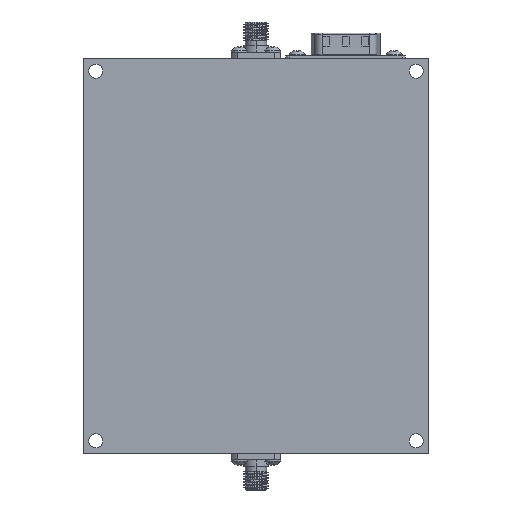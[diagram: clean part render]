
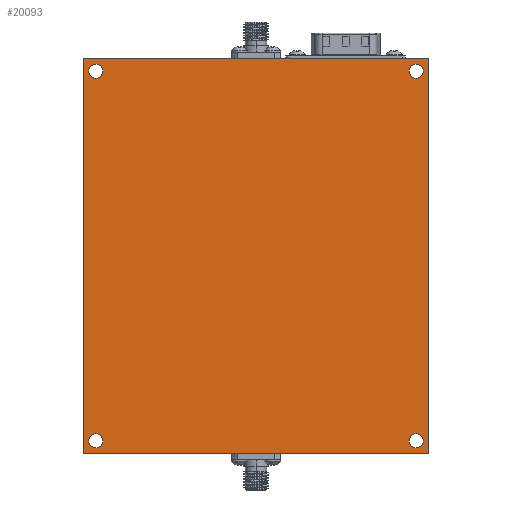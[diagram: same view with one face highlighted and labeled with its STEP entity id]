
A CAD part, front view. The second image highlights one B-rep face of the part: STEP entity #20093.
In plain terms, the highlighted planar face has unit normal (0, -1, 0).
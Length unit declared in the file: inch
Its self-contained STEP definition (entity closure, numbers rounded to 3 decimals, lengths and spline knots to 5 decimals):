
#8 = CIRCLE ( 'NONE', #4011, 0.072 ) ;
#124 = CARTESIAN_POINT ( 'NONE',  ( 3.375, 0., -0.197 ) ) ;
#360 = LINE ( 'NONE', #8512, #13853 ) ;
#483 = VECTOR ( 'NONE', #18515, 39.37008 ) ;
#648 = FACE_BOUND ( 'NONE', #5110, .T. ) ;
#693 = EDGE_CURVE ( 'NONE', #17747, #15999, #18572, .T. ) ;
#835 = CARTESIAN_POINT ( 'NONE',  ( 3.5, 0., -4. ) ) ;
#980 = DIRECTION ( 'NONE',  ( 0., 1., 0. ) ) ;
#1340 = DIRECTION ( 'NONE',  ( 0., 1., 0. ) ) ;
#1588 = DIRECTION ( 'NONE',  ( 0., 0., 1. ) ) ;
#2167 = EDGE_CURVE ( 'NONE', #17998, #16111, #8764, .T. ) ;
#2480 = ORIENTED_EDGE ( 'NONE', *, *, #18947, .T. ) ;
#3017 = DIRECTION ( 'NONE',  ( 0., 0., 1. ) ) ;
#3297 = DIRECTION ( 'NONE',  ( 1., 0., 0. ) ) ;
#4011 = AXIS2_PLACEMENT_3D ( 'NONE', #11476, #980, #13278 ) ;
#4068 = EDGE_CURVE ( 'NONE', #16401, #21632, #19484, .T. ) ;
#4439 = CARTESIAN_POINT ( 'NONE',  ( 0.125, 0., -3.875 ) ) ;
#5110 = EDGE_LOOP ( 'NONE', ( #8149, #11071 ) ) ;
#5328 = FACE_OUTER_BOUND ( 'NONE', #22346, .T. ) ;
#5418 = DIRECTION ( 'NONE',  ( 0., 0., -1. ) ) ;
#5428 = DIRECTION ( 'NONE',  ( 0., 1., 0. ) ) ;
#5559 = CARTESIAN_POINT ( 'NONE',  ( 3.375, 0., -3.875 ) ) ;
#5631 = CARTESIAN_POINT ( 'NONE',  ( 3.375, 0., -3.875 ) ) ;
#6232 = DIRECTION ( 'NONE',  ( 0., 0., -1. ) ) ;
#6806 = ORIENTED_EDGE ( 'NONE', *, *, #8636, .F. ) ;
#6850 = CARTESIAN_POINT ( 'NONE',  ( 3.375, 0., -3.947 ) ) ;
#7105 = CARTESIAN_POINT ( 'NONE',  ( 3.5, 0., 0. ) ) ;
#7325 = DIRECTION ( 'NONE',  ( 0., 0., 1. ) ) ;
#7331 = ORIENTED_EDGE ( 'NONE', *, *, #13251, .F. ) ;
#7394 = DIRECTION ( 'NONE',  ( 0., 0., 1. ) ) ;
#7845 = EDGE_LOOP ( 'NONE', ( #11041, #12329 ) ) ;
#7875 = EDGE_CURVE ( 'NONE', #11026, #22680, #14890, .T. ) ;
#7931 = EDGE_CURVE ( 'NONE', #22680, #11026, #18491, .T. ) ;
#8067 = CARTESIAN_POINT ( 'NONE',  ( 0., 0., 0. ) ) ;
#8149 = ORIENTED_EDGE ( 'NONE', *, *, #7875, .T. ) ;
#8415 = VECTOR ( 'NONE', #5418, 39.37008 ) ;
#8512 = CARTESIAN_POINT ( 'NONE',  ( 0., 0., 0. ) ) ;
#8636 = EDGE_CURVE ( 'NONE', #17633, #16401, #19277, .T. ) ;
#8762 = DIRECTION ( 'NONE',  ( 0., 1., 0. ) ) ;
#8764 = CIRCLE ( 'NONE', #17151, 0.072 ) ;
#8845 = CIRCLE ( 'NONE', #15040, 0.072 ) ;
#8930 = VERTEX_POINT ( 'NONE', #16172 ) ;
#9584 = EDGE_LOOP ( 'NONE', ( #2480, #15448 ) ) ;
#9733 = DIRECTION ( 'NONE',  ( 0., -1., 0. ) ) ;
#9766 = CIRCLE ( 'NONE', #21625, 0.072 ) ;
#9971 = FACE_BOUND ( 'NONE', #7845, .T. ) ;
#10010 = VECTOR ( 'NONE', #3017, 39.37008 ) ;
#10211 = EDGE_CURVE ( 'NONE', #15999, #17747, #8845, .T. ) ;
#10355 = AXIS2_PLACEMENT_3D ( 'NONE', #5631, #18004, #7394 ) ;
#10547 = ORIENTED_EDGE ( 'NONE', *, *, #693, .T. ) ;
#11026 = VERTEX_POINT ( 'NONE', #6850 ) ;
#11041 = ORIENTED_EDGE ( 'NONE', *, *, #13653, .T. ) ;
#11071 = ORIENTED_EDGE ( 'NONE', *, *, #7931, .T. ) ;
#11476 = CARTESIAN_POINT ( 'NONE',  ( 3.375, 0., -0.125 ) ) ;
#11566 = CARTESIAN_POINT ( 'NONE',  ( 0.125, 0., -0.053 ) ) ;
#11839 = CARTESIAN_POINT ( 'NONE',  ( 3.375, 0., -0.125 ) ) ;
#12103 = DIRECTION ( 'NONE',  ( 0., 1., 0. ) ) ;
#12161 = AXIS2_PLACEMENT_3D ( 'NONE', #15131, #9733, #16923 ) ;
#12329 = ORIENTED_EDGE ( 'NONE', *, *, #22289, .T. ) ;
#12478 = ORIENTED_EDGE ( 'NONE', *, *, #20293, .F. ) ;
#12531 = VERTEX_POINT ( 'NONE', #124 ) ;
#13123 = LINE ( 'NONE', #7105, #8415 ) ;
#13251 = EDGE_CURVE ( 'NONE', #8930, #17633, #13123, .T. ) ;
#13278 = DIRECTION ( 'NONE',  ( 0., 0., -1. ) ) ;
#13317 = PLANE ( 'NONE',  #12161 ) ;
#13344 = CARTESIAN_POINT ( 'NONE',  ( 3.375, 0., -3.803 ) ) ;
#13581 = CARTESIAN_POINT ( 'NONE',  ( 0., 0., 0. ) ) ;
#13630 = AXIS2_PLACEMENT_3D ( 'NONE', #16027, #5428, #17821 ) ;
#13643 = DIRECTION ( 'NONE',  ( 0., 0., -1. ) ) ;
#13653 = EDGE_CURVE ( 'NONE', #12531, #19559, #9766, .T. ) ;
#13853 = VECTOR ( 'NONE', #3297, 39.37008 ) ;
#14141 = FACE_BOUND ( 'NONE', #17491, .T. ) ;
#14890 = CIRCLE ( 'NONE', #10355, 0.072 ) ;
#15040 = AXIS2_PLACEMENT_3D ( 'NONE', #22767, #12103, #1588 ) ;
#15131 = CARTESIAN_POINT ( 'NONE',  ( 0., 0., 0. ) ) ;
#15143 = AXIS2_PLACEMENT_3D ( 'NONE', #5559, #17940, #7325 ) ;
#15448 = ORIENTED_EDGE ( 'NONE', *, *, #2167, .T. ) ;
#15999 = VERTEX_POINT ( 'NONE', #18781 ) ;
#16027 = CARTESIAN_POINT ( 'NONE',  ( 0.125, 0., -3.875 ) ) ;
#16111 = VERTEX_POINT ( 'NONE', #19318 ) ;
#16172 = CARTESIAN_POINT ( 'NONE',  ( 3.5, 0., 0. ) ) ;
#16183 = CIRCLE ( 'NONE', #13630, 0.072 ) ;
#16401 = VERTEX_POINT ( 'NONE', #18592 ) ;
#16823 = DIRECTION ( 'NONE',  ( 0., 1., 0. ) ) ;
#16923 = DIRECTION ( 'NONE',  ( 0., 0., -1. ) ) ;
#17151 = AXIS2_PLACEMENT_3D ( 'NONE', #4439, #16823, #6232 ) ;
#17425 = AXIS2_PLACEMENT_3D ( 'NONE', #19428, #8762, #21197 ) ;
#17491 = EDGE_LOOP ( 'NONE', ( #20006, #10547 ) ) ;
#17633 = VERTEX_POINT ( 'NONE', #835 ) ;
#17747 = VERTEX_POINT ( 'NONE', #11566 ) ;
#17821 = DIRECTION ( 'NONE',  ( 0., 0., -1. ) ) ;
#17940 = DIRECTION ( 'NONE',  ( 0., 1., 0. ) ) ;
#17998 = VERTEX_POINT ( 'NONE', #20217 ) ;
#18004 = DIRECTION ( 'NONE',  ( 0., 1., 0. ) ) ;
#18437 = CARTESIAN_POINT ( 'NONE',  ( 0., 0., -4. ) ) ;
#18491 = CIRCLE ( 'NONE', #15143, 0.072 ) ;
#18515 = DIRECTION ( 'NONE',  ( -1., 0., 0. ) ) ;
#18572 = CIRCLE ( 'NONE', #17425, 0.072 ) ;
#18592 = CARTESIAN_POINT ( 'NONE',  ( 0., 0., -4. ) ) ;
#18781 = CARTESIAN_POINT ( 'NONE',  ( 0.125, 0., -0.197 ) ) ;
#18947 = EDGE_CURVE ( 'NONE', #16111, #17998, #16183, .T. ) ;
#19277 = LINE ( 'NONE', #18437, #483 ) ;
#19318 = CARTESIAN_POINT ( 'NONE',  ( 0.125, 0., -3.947 ) ) ;
#19428 = CARTESIAN_POINT ( 'NONE',  ( 0.125, 0., -0.125 ) ) ;
#19452 = FACE_BOUND ( 'NONE', #9584, .T. ) ;
#19484 = LINE ( 'NONE', #13581, #10010 ) ;
#19559 = VERTEX_POINT ( 'NONE', #21903 ) ;
#20006 = ORIENTED_EDGE ( 'NONE', *, *, #10211, .T. ) ;
#20093 = ADVANCED_FACE ( 'NONE', ( #9971, #14141, #5328, #19452, #648 ), #13317, .T. ) ;
#20217 = CARTESIAN_POINT ( 'NONE',  ( 0.125, 0., -3.803 ) ) ;
#20293 = EDGE_CURVE ( 'NONE', #21632, #8930, #360, .T. ) ;
#21197 = DIRECTION ( 'NONE',  ( 0., 0., 1. ) ) ;
#21585 = ORIENTED_EDGE ( 'NONE', *, *, #4068, .F. ) ;
#21625 = AXIS2_PLACEMENT_3D ( 'NONE', #11839, #1340, #13643 ) ;
#21632 = VERTEX_POINT ( 'NONE', #8067 ) ;
#21903 = CARTESIAN_POINT ( 'NONE',  ( 3.375, 0., -0.053 ) ) ;
#22289 = EDGE_CURVE ( 'NONE', #19559, #12531, #8, .T. ) ;
#22346 = EDGE_LOOP ( 'NONE', ( #21585, #6806, #7331, #12478 ) ) ;
#22680 = VERTEX_POINT ( 'NONE', #13344 ) ;
#22767 = CARTESIAN_POINT ( 'NONE',  ( 0.125, 0., -0.125 ) ) ;
